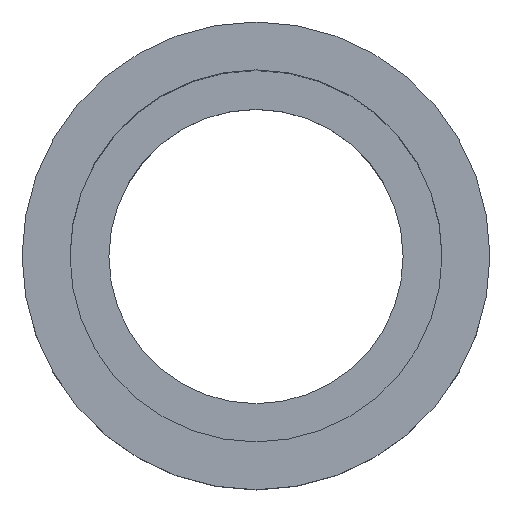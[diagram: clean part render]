
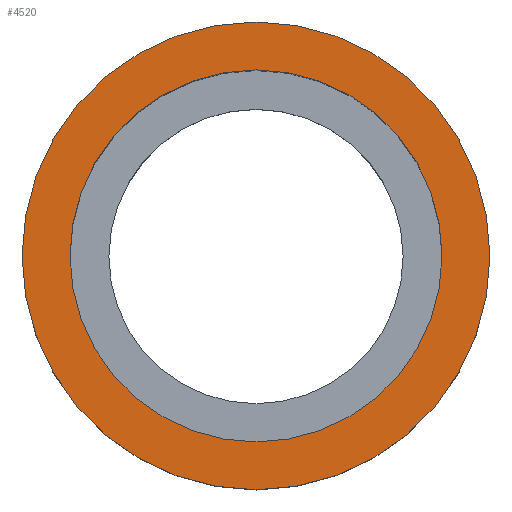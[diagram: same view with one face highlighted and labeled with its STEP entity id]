
A CAD part, top view. The second image highlights one B-rep face of the part: STEP entity #4520.
In plain terms, the highlighted planar face has unit normal (0, 0, 1) as drawn and (0, -1, 0) by its records, which use the part's own axes.
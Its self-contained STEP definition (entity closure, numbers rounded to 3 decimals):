
#3900=CARTESIAN_POINT('',(22.95,-63.794,-31.));
#3910=VERTEX_POINT('',#3900);
#4130=CARTESIAN_POINT('',(22.95,-63.794,31.));
#4140=VERTEX_POINT('',#4130);
#4170=CARTESIAN_POINT('',(22.95,-63.794,0.)
);
#4180=DIRECTION('',(0.,1.,0.));
#4190=DIRECTION('',(0.,0.,1.));
#4200=AXIS2_PLACEMENT_3D('',#4170,#4180,#4190);
#4210=CIRCLE('',#4200,31.);
#4220=EDGE_CURVE('',#3910,#4140,#4210,.T.);
#4270=CARTESIAN_POINT('',(22.95,-63.794,-28.388));
#4280=DIRECTION('',(0.,-1.,0.));
#4290=DIRECTION('',(0.,0.,-1.));
#4300=AXIS2_PLACEMENT_3D('',#4270,#4280,#4290);
#4310=PLANE('',#4300);
#4320=CARTESIAN_POINT('',(22.95,-63.794,0.))
;
#4330=DIRECTION('',(0.,-1.,0.));
#4340=DIRECTION('',(-1.,0.,0.));
#4350=AXIS2_PLACEMENT_3D('',#4320,#4330,#4340);
#4360=CIRCLE('',#4350,24.65);
#4370=CARTESIAN_POINT('',(-1.7,-63.794,
0.));
#4380=VERTEX_POINT('',#4370);
#4390=CARTESIAN_POINT('',(47.6,-63.794,0.))
;
#4400=VERTEX_POINT('',#4390);
#4410=EDGE_CURVE('',#4380,#4400,#4360,.T.);
#4420=ORIENTED_EDGE('',*,*,#4410,.F.);
#4430=EDGE_CURVE('',#4400,#4380,#4360,.T.);
#4440=ORIENTED_EDGE('',*,*,#4430,.F.);
#4450=EDGE_LOOP('',(#4440,#4420));
#4460=FACE_BOUND('',#4450,.T.);
#4470=EDGE_CURVE('',#4140,#3910,#4210,.T.);
#4480=ORIENTED_EDGE('',*,*,#4470,.F.);
#4490=ORIENTED_EDGE('',*,*,#4220,.F.);
#4500=EDGE_LOOP('',(#4490,#4480));
#4510=FACE_OUTER_BOUND('',#4500,.T.);
#4520=ADVANCED_FACE('',(#4460,#4510),#4310,.T.);
